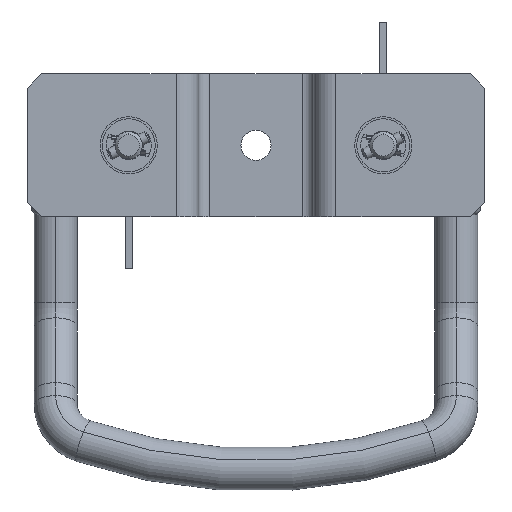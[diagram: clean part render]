
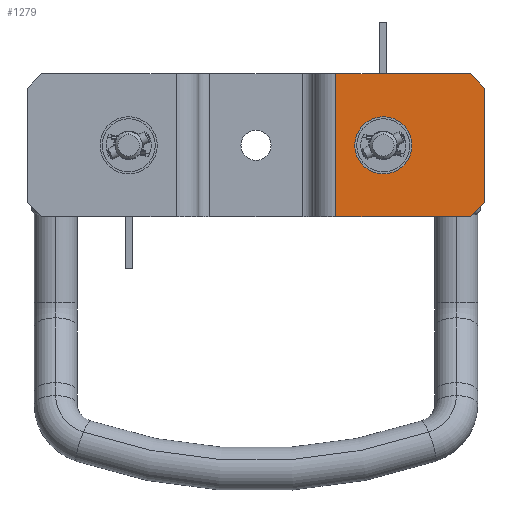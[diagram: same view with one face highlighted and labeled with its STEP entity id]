
A CAD part, front view. The second image highlights one B-rep face of the part: STEP entity #1279.
In plain terms, the highlighted planar face has unit normal (0, -1, 0).
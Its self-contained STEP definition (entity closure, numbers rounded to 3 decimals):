
#316=DIRECTION('',(0.,0.,1.));
#317=VECTOR('',#316,50.);
#318=CARTESIAN_POINT('',(27.9,-29.,-25.));
#319=LINE('',#318,#317);
#334=CARTESIAN_POINT('',(44.5,-29.,0.));
#335=DIRECTION('',(0.,-1.,0.));
#336=DIRECTION('',(1.,0.,0.));
#337=AXIS2_PLACEMENT_3D('',#334,#335,#336);
#339=CARTESIAN_POINT('',(44.5,-29.,0.));
#340=DIRECTION('',(0.,-1.,0.));
#341=DIRECTION('',(-1.,0.,0.));
#342=AXIS2_PLACEMENT_3D('',#339,#340,#341);
#344=DIRECTION('',(-0.707,0.,0.707));
#345=VECTOR('',#344,7.071);
#346=CARTESIAN_POINT('',(80.,-29.,20.));
#347=LINE('',#346,#345);
#348=DIRECTION('',(0.,0.,-1.));
#349=VECTOR('',#348,40.);
#350=CARTESIAN_POINT('',(80.,-29.,20.));
#351=LINE('',#350,#349);
#352=DIRECTION('',(0.707,0.,0.707));
#353=VECTOR('',#352,7.071);
#354=CARTESIAN_POINT('',(75.,-29.,-25.));
#355=LINE('',#354,#353);
#356=DIRECTION('',(-1.,0.,0.));
#357=VECTOR('',#356,47.1);
#358=CARTESIAN_POINT('',(75.,-29.,-25.));
#359=LINE('',#358,#357);
#360=DIRECTION('',(1.,0.,0.));
#361=VECTOR('',#360,47.1);
#362=CARTESIAN_POINT('',(27.9,-29.,25.));
#363=LINE('',#362,#361);
#874=CARTESIAN_POINT('',(27.9,-29.,25.));
#876=VERTEX_POINT('',#874);
#878=CARTESIAN_POINT('',(27.9,-29.,-25.));
#879=VERTEX_POINT('',#878);
#942=CARTESIAN_POINT('',(54.5,-29.,0.));
#943=CARTESIAN_POINT('',(34.5,-29.,0.));
#944=VERTEX_POINT('',#942);
#945=VERTEX_POINT('',#943);
#978=CARTESIAN_POINT('',(80.,-29.,20.));
#979=CARTESIAN_POINT('',(75.,-29.,25.));
#980=VERTEX_POINT('',#978);
#981=VERTEX_POINT('',#979);
#998=CARTESIAN_POINT('',(80.,-29.,-20.));
#999=VERTEX_POINT('',#998);
#1002=CARTESIAN_POINT('',(75.,-29.,-25.));
#1003=VERTEX_POINT('',#1002);
#1255=CARTESIAN_POINT('',(20.,-29.,25.));
#1256=DIRECTION('',(0.,1.,0.));
#1257=DIRECTION('',(0.,0.,1.));
#1258=AXIS2_PLACEMENT_3D('',#1255,#1256,#1257);
#1259=PLANE('',#1258);
#1261=ORIENTED_EDGE('',*,*,#1260,.F.);
#1263=ORIENTED_EDGE('',*,*,#1262,.T.);
#1265=ORIENTED_EDGE('',*,*,#1264,.F.);
#1267=ORIENTED_EDGE('',*,*,#1266,.T.);
#1268=ORIENTED_EDGE('',*,*,#1246,.T.);
#1270=ORIENTED_EDGE('',*,*,#1269,.T.);
#1271=EDGE_LOOP('',(#1261,#1263,#1265,#1267,#1268,#1270));
#1272=FACE_OUTER_BOUND('',#1271,.F.);
#1274=ORIENTED_EDGE('',*,*,#1273,.T.);
#1276=ORIENTED_EDGE('',*,*,#1275,.T.);
#1277=EDGE_LOOP('',(#1274,#1276));
#1278=FACE_BOUND('',#1277,.F.);
#338=CIRCLE('',#337,10.);
#343=CIRCLE('',#342,10.);
#1246=EDGE_CURVE('',#879,#876,#319,.T.);
#1260=EDGE_CURVE('',#980,#981,#347,.T.);
#1262=EDGE_CURVE('',#980,#999,#351,.T.);
#1264=EDGE_CURVE('',#1003,#999,#355,.T.);
#1266=EDGE_CURVE('',#1003,#879,#359,.T.);
#1269=EDGE_CURVE('',#876,#981,#363,.T.);
#1273=EDGE_CURVE('',#944,#945,#338,.T.);
#1275=EDGE_CURVE('',#945,#944,#343,.T.);
#1279=ADVANCED_FACE('',(#1272,#1278),#1259,.F.);
